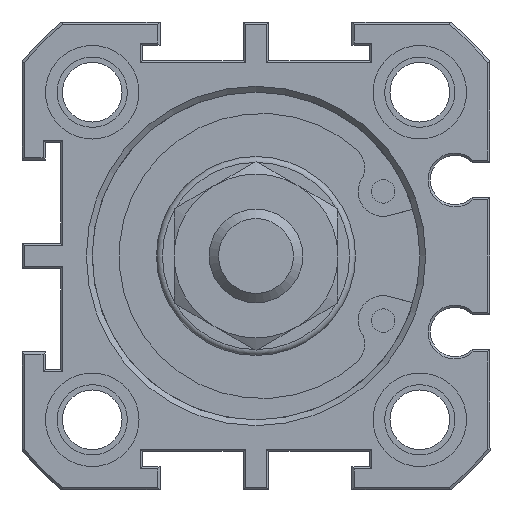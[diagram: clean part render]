
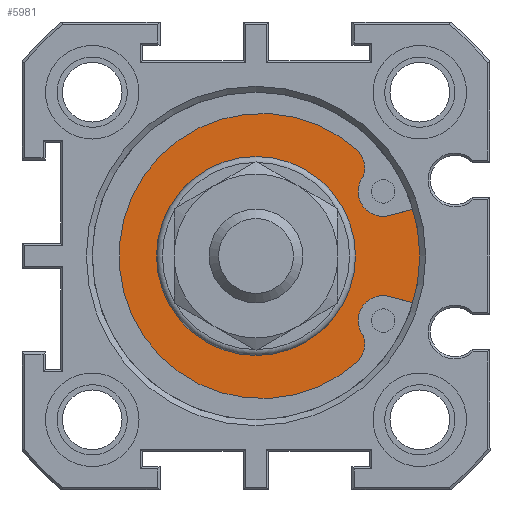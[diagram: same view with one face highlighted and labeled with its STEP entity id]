
A CAD part, front view. The second image highlights one B-rep face of the part: STEP entity #5981.
In plain terms, the highlighted planar face has unit normal (0, -1, 0).
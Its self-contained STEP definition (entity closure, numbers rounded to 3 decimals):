
#439=LINE('',#8661,#795);
#447=LINE('',#8687,#803);
#795=VECTOR('',#7429,1000.);
#803=VECTOR('',#7459,1000.);
#1820=ORIENTED_EDGE('',*,*,#2443,.T.);
#1821=ORIENTED_EDGE('',*,*,#2442,.F.);
#1822=ORIENTED_EDGE('',*,*,#2440,.T.);
#1823=ORIENTED_EDGE('',*,*,#2438,.T.);
#1824=ORIENTED_EDGE('',*,*,#2436,.T.);
#1825=ORIENTED_EDGE('',*,*,#2434,.T.);
#1826=ORIENTED_EDGE('',*,*,#2432,.T.);
#1827=ORIENTED_EDGE('',*,*,#2430,.T.);
#1828=ORIENTED_EDGE('',*,*,#2427,.T.);
#2427=EDGE_CURVE('',#2806,#2807,#439,.T.);
#2430=EDGE_CURVE('',#2808,#2806,#2961,.T.);
#2432=EDGE_CURVE('',#2809,#2808,#2962,.T.);
#2434=EDGE_CURVE('',#2810,#2809,#2963,.T.);
#2436=EDGE_CURVE('',#2811,#2810,#2964,.T.);
#2438=EDGE_CURVE('',#2812,#2811,#2965,.T.);
#2440=EDGE_CURVE('',#2813,#2812,#447,.T.);
#2442=EDGE_CURVE('',#2813,#2807,#2966,.T.);
#2443=EDGE_CURVE('',#2814,#2814,#2967,.T.);
#2806=VERTEX_POINT('',#8662);
#2807=VERTEX_POINT('',#8663);
#2808=VERTEX_POINT('',#8668);
#2809=VERTEX_POINT('',#8672);
#2810=VERTEX_POINT('',#8676);
#2811=VERTEX_POINT('',#8680);
#2812=VERTEX_POINT('',#8684);
#2813=VERTEX_POINT('',#8688);
#2814=VERTEX_POINT('',#8694);
#2961=CIRCLE('',#6354,2.134);
#2962=CIRCLE('',#6356,2.134);
#2963=CIRCLE('',#6358,12.185);
#2964=CIRCLE('',#6360,2.134);
#2965=CIRCLE('',#6362,2.134);
#2966=CIRCLE('',#6365,14.7);
#2967=CIRCLE('',#6367,8.5);
#3290=EDGE_LOOP('',(#1820));
#3291=EDGE_LOOP('',(#1821,#1822,#1823,#1824,#1825,#1826,#1827,#1828));
#3632=FACE_BOUND('',#3290,.T.);
#3633=FACE_BOUND('',#3291,.T.);
#3847=PLANE('',#6366);
#5981=ADVANCED_FACE('',(#3632,#3633),#3847,.F.);
#6354=AXIS2_PLACEMENT_3D('',#8667,#7434,#7435);
#6356=AXIS2_PLACEMENT_3D('',#8671,#7439,#7440);
#6358=AXIS2_PLACEMENT_3D('',#8675,#7444,#7445);
#6360=AXIS2_PLACEMENT_3D('',#8679,#7449,#7450);
#6362=AXIS2_PLACEMENT_3D('',#8683,#7454,#7455);
#6365=AXIS2_PLACEMENT_3D('',#8691,#7463,#7464);
#6366=AXIS2_PLACEMENT_3D('',#8692,#7465,#7466);
#6367=AXIS2_PLACEMENT_3D('',#8693,#7467,#7468);
#7429=DIRECTION('',(0.966,0.,-0.259));
#7434=DIRECTION('',(0.,1.,0.));
#7435=DIRECTION('',(1.,0.,0.));
#7439=DIRECTION('',(0.,-1.,0.));
#7440=DIRECTION('',(-1.,0.,0.));
#7444=DIRECTION('',(0.,-1.,0.));
#7445=DIRECTION('',(1.,0.,0.));
#7449=DIRECTION('',(0.,-1.,0.));
#7450=DIRECTION('',(-1.,0.,0.));
#7454=DIRECTION('',(0.,1.,0.));
#7455=DIRECTION('',(1.,0.,0.));
#7459=DIRECTION('',(-0.966,0.,-0.259));
#7463=DIRECTION('',(0.,1.,0.));
#7464=DIRECTION('',(0.,0.,1.));
#7465=DIRECTION('',(0.,1.,0.));
#7466=DIRECTION('',(0.,0.,1.));
#7467=DIRECTION('',(0.,1.,0.));
#7468=DIRECTION('',(0.,0.,1.));
#8661=CARTESIAN_POINT('',(11.419,3.,-3.458));
#8662=CARTESIAN_POINT('',(11.419,3.,-3.458));
#8663=CARTESIAN_POINT('',(14.095,3.,-4.175));
#8667=CARTESIAN_POINT('',(10.866,3.,-5.52));
#8668=CARTESIAN_POINT('',(9.146,3.,-6.783));
#8671=CARTESIAN_POINT('',(7.151,3.,-7.541));
#8672=CARTESIAN_POINT('',(8.751,3.,-8.953));
#8675=CARTESIAN_POINT('',(0.486,3.,0.));
#8676=CARTESIAN_POINT('',(8.751,3.,8.953));
#8679=CARTESIAN_POINT('',(7.151,3.,7.541));
#8680=CARTESIAN_POINT('',(9.146,3.,6.783));
#8683=CARTESIAN_POINT('',(10.866,3.,5.52));
#8684=CARTESIAN_POINT('',(11.419,3.,3.458));
#8687=CARTESIAN_POINT('',(14.095,3.,4.175));
#8688=CARTESIAN_POINT('',(14.095,3.,4.175));
#8691=CARTESIAN_POINT('',(0.,3.,0.));
#8692=CARTESIAN_POINT('',(0.,3.,-2.1));
#8693=CARTESIAN_POINT('',(0.,3.,0.));
#8694=CARTESIAN_POINT('',(0.,3.,8.5));
